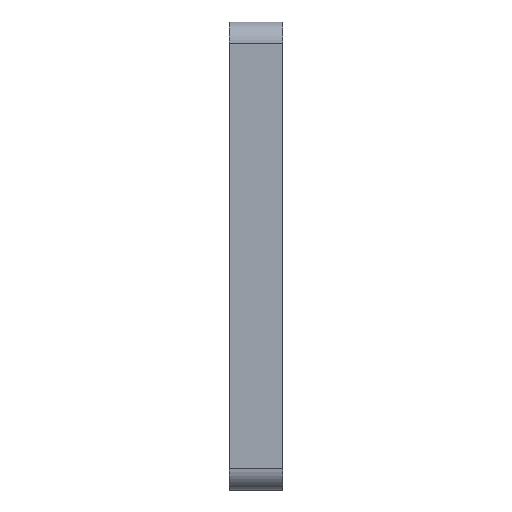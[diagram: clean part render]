
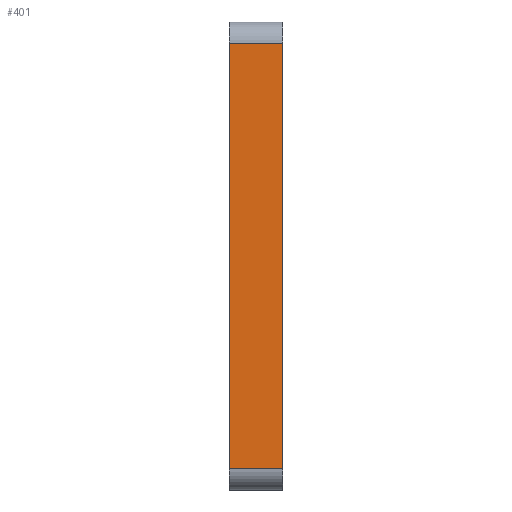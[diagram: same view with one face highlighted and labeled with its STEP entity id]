
A CAD part, left-side view. The second image highlights one B-rep face of the part: STEP entity #401.
In plain terms, the highlighted planar face has unit normal (-1, 0, 0).
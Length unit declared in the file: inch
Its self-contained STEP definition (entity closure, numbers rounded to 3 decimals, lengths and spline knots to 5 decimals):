
#15 = CARTESIAN_POINT ( 'NONE',  ( -2.0625, 0.0625, 0. ) ) ;
#16 = CARTESIAN_POINT ( 'NONE',  ( -2.0625, 0., 1.875 ) ) ;
#113 = EDGE_CURVE ( 'NONE', #1491, #1821, #132, .T. ) ;
#132 = LINE ( 'NONE', #685, #1071 ) ;
#200 = ORIENTED_EDGE ( 'NONE', *, *, #113, .T. ) ;
#262 = CARTESIAN_POINT ( 'NONE',  ( -2.0625, 0.46875, -1.875 ) ) ;
#401 = ADVANCED_FACE ( 'NONE', ( #1506 ), #1785, .T. ) ;
#435 = EDGE_CURVE ( 'NONE', #1491, #1131, #1066, .T. ) ;
#537 = VERTEX_POINT ( 'NONE', #262 ) ;
#557 = EDGE_LOOP ( 'NONE', ( #200, #2117, #1284, #735 ) ) ;
#664 = VECTOR ( 'NONE', #1386, 39.37008 ) ;
#685 = CARTESIAN_POINT ( 'NONE',  ( -2.0625, 0.4375, 1.875 ) ) ;
#735 = ORIENTED_EDGE ( 'NONE', *, *, #435, .F. ) ;
#762 = DIRECTION ( 'NONE',  ( 0., 0., -1. ) ) ;
#1022 = CARTESIAN_POINT ( 'NONE',  ( -2.0625, 0., -1.875 ) ) ;
#1066 = LINE ( 'NONE', #2037, #1752 ) ;
#1071 = VECTOR ( 'NONE', #1607, 39.37008 ) ;
#1106 = CARTESIAN_POINT ( 'NONE',  ( -2.0625, 0.46875, 1.875 ) ) ;
#1131 = VERTEX_POINT ( 'NONE', #1022 ) ;
#1143 = AXIS2_PLACEMENT_3D ( 'NONE', #15, #1672, #1297 ) ;
#1284 = ORIENTED_EDGE ( 'NONE', *, *, #1996, .T. ) ;
#1297 = DIRECTION ( 'NONE',  ( 0., 0., 1. ) ) ;
#1386 = DIRECTION ( 'NONE',  ( 0., 0., 1. ) ) ;
#1491 = VERTEX_POINT ( 'NONE', #16 ) ;
#1502 = CARTESIAN_POINT ( 'NONE',  ( -2.0625, 0.0625, -1.875 ) ) ;
#1506 = FACE_OUTER_BOUND ( 'NONE', #557, .T. ) ;
#1589 = VECTOR ( 'NONE', #1705, 39.37008 ) ;
#1602 = EDGE_CURVE ( 'NONE', #537, #1821, #2310, .T. ) ;
#1607 = DIRECTION ( 'NONE',  ( 0., 1., 0. ) ) ;
#1672 = DIRECTION ( 'NONE',  ( -1., 0., 0. ) ) ;
#1705 = DIRECTION ( 'NONE',  ( 0., -1., 0. ) ) ;
#1752 = VECTOR ( 'NONE', #762, 39.37008 ) ;
#1785 = PLANE ( 'NONE',  #1143 ) ;
#1821 = VERTEX_POINT ( 'NONE', #1106 ) ;
#1996 = EDGE_CURVE ( 'NONE', #537, #1131, #2258, .T. ) ;
#2037 = CARTESIAN_POINT ( 'NONE',  ( -2.0625, 0., 0. ) ) ;
#2117 = ORIENTED_EDGE ( 'NONE', *, *, #1602, .F. ) ;
#2258 = LINE ( 'NONE', #1502, #1589 ) ;
#2286 = CARTESIAN_POINT ( 'NONE',  ( -2.0625, 0.46875, -1.875 ) ) ;
#2310 = LINE ( 'NONE', #2286, #664 ) ;
